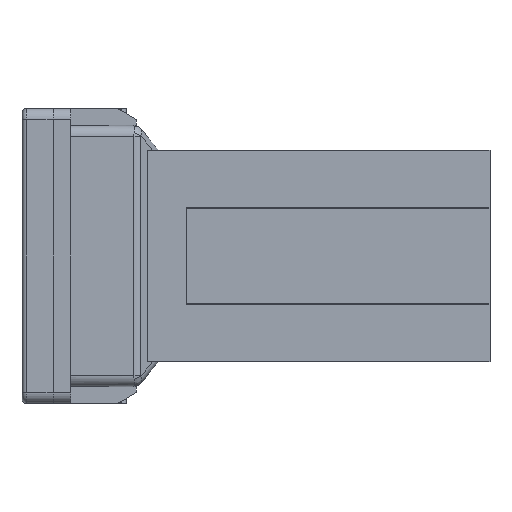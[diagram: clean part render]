
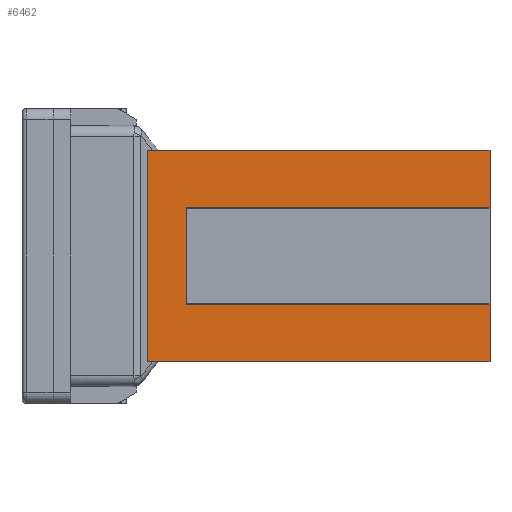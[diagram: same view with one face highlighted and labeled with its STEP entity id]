
A CAD part, left-side view. The second image highlights one B-rep face of the part: STEP entity #6462.
In plain terms, the highlighted planar face has unit normal (-1, 0, 0).
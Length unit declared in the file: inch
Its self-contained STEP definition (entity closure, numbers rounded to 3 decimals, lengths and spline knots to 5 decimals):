
#707=FACE_OUTER_BOUND('',#1073,.T.);
#1073=EDGE_LOOP('',(#5559,#5560,#5561,#5562,#5563,#5564,#5565,#5566));
#1179=LINE('',#8522,#1873);
#1183=LINE('',#8534,#1877);
#1675=LINE('',#11080,#2369);
#1711=LINE('',#11303,#2405);
#1716=LINE('',#11311,#2410);
#1717=LINE('',#11313,#2411);
#1718=LINE('',#11315,#2412);
#1719=LINE('',#11316,#2413);
#1873=VECTOR('',#7036,0.3937);
#1877=VECTOR('',#7044,0.3937);
#2369=VECTOR('',#7950,0.3937);
#2405=VECTOR('',#8064,0.3937);
#2410=VECTOR('',#8071,0.3937);
#2411=VECTOR('',#8072,0.3937);
#2412=VECTOR('',#8073,0.3937);
#2413=VECTOR('',#8074,0.3937);
#2561=VERTEX_POINT('',#8519);
#2562=VERTEX_POINT('',#8521);
#2567=VERTEX_POINT('',#8531);
#2568=VERTEX_POINT('',#8533);
#3015=VERTEX_POINT('',#11077);
#3016=VERTEX_POINT('',#11079);
#3053=VERTEX_POINT('',#11312);
#3054=VERTEX_POINT('',#11314);
#3175=EDGE_CURVE('',#2562,#2561,#1179,.T.);
#3181=EDGE_CURVE('',#2568,#2567,#1183,.T.);
#3852=EDGE_CURVE('',#3016,#3015,#1675,.T.);
#3909=EDGE_CURVE('',#2561,#3016,#1711,.T.);
#3914=EDGE_CURVE('',#2568,#3015,#1716,.T.);
#3915=EDGE_CURVE('',#3053,#2567,#1717,.T.);
#3916=EDGE_CURVE('',#3054,#3053,#1718,.T.);
#3917=EDGE_CURVE('',#2562,#3054,#1719,.T.);
#5559=ORIENTED_EDGE('',*,*,#3852,.T.);
#5560=ORIENTED_EDGE('',*,*,#3914,.F.);
#5561=ORIENTED_EDGE('',*,*,#3181,.T.);
#5562=ORIENTED_EDGE('',*,*,#3915,.F.);
#5563=ORIENTED_EDGE('',*,*,#3916,.F.);
#5564=ORIENTED_EDGE('',*,*,#3917,.F.);
#5565=ORIENTED_EDGE('',*,*,#3175,.T.);
#5566=ORIENTED_EDGE('',*,*,#3909,.T.);
#6155=PLANE('',#6859);
#6462=ADVANCED_FACE('',(#707),#6155,.T.);
#6859=AXIS2_PLACEMENT_3D('',#11310,#8069,#8070);
#7036=DIRECTION('',(0.,0.,1.));
#7044=DIRECTION('',(0.,0.,1.));
#7950=DIRECTION('',(0.,0.,-1.));
#8064=DIRECTION('',(0.,1.,0.));
#8069=DIRECTION('center_axis',(-1.,0.,0.));
#8070=DIRECTION('ref_axis',(0.,0.,1.));
#8071=DIRECTION('',(0.,1.,0.));
#8072=DIRECTION('',(0.,-1.,0.));
#8073=DIRECTION('',(0.,0.,-1.));
#8074=DIRECTION('',(0.,1.,0.));
#8519=CARTESIAN_POINT('',(-0.19685,0.,0.24016));
#8521=CARTESIAN_POINT('',(-0.19685,0.,0.10927));
#8522=CARTESIAN_POINT('',(-0.19685,0.,-0.24016));
#8531=CARTESIAN_POINT('',(-0.19685,0.,-0.10927));
#8533=CARTESIAN_POINT('',(-0.19685,0.,-0.24016));
#8534=CARTESIAN_POINT('',(-0.19685,0.,-0.24016));
#11077=CARTESIAN_POINT('',(-0.19685,0.77888,-0.24016));
#11079=CARTESIAN_POINT('',(-0.19685,0.77888,0.24016));
#11080=CARTESIAN_POINT('',(-0.19685,0.77888,-0.26467));
#11303=CARTESIAN_POINT('',(-0.19685,0.,0.24016));
#11310=CARTESIAN_POINT('Origin',(-0.19685,0.,-0.24016));
#11311=CARTESIAN_POINT('',(-0.19685,0.,-0.24016));
#11312=CARTESIAN_POINT('',(-0.19685,0.68998,-0.10927));
#11313=CARTESIAN_POINT('',(-0.19685,0.34449,-0.10927));
#11314=CARTESIAN_POINT('',(-0.19685,0.68998,0.10927));
#11315=CARTESIAN_POINT('',(-0.19685,0.68998,-0.06594));
#11316=CARTESIAN_POINT('',(-0.19685,0.,0.10927));
